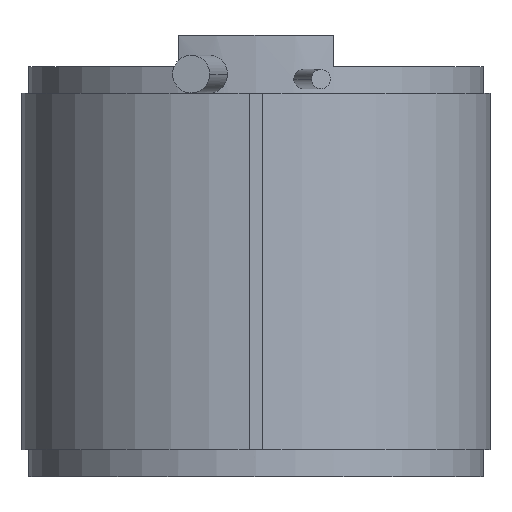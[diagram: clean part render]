
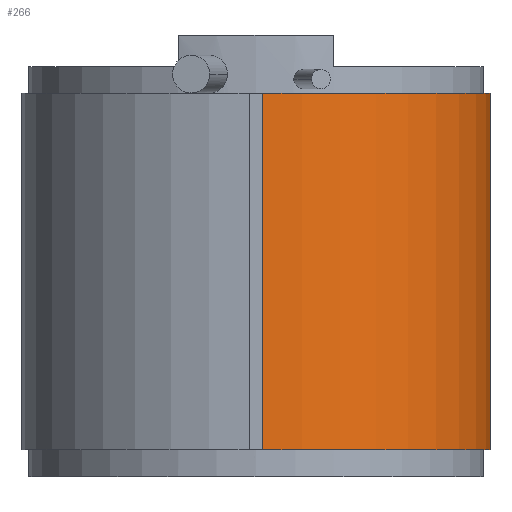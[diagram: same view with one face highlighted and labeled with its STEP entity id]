
A CAD part, front view. The second image highlights one B-rep face of the part: STEP entity #266.
In plain terms, the highlighted cylindrical face has radius 52.5 mm (diameter 105 mm), a partial arc.
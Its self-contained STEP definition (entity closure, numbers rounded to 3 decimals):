
#8 = EDGE_CURVE ( 'NONE', #635, #165, #34, .T. ) ;
#10 = DIRECTION ( 'NONE',  ( 0., 0., -1. ) ) ;
#17 = CIRCLE ( 'NONE', #580, 52.5 ) ;
#19 = CARTESIAN_POINT ( 'NONE',  ( 55.462, 74.83, 27.523 ) ) ;
#34 = LINE ( 'NONE', #1403, #985 ) ;
#35 = CARTESIAN_POINT ( 'NONE',  ( 9.246, 49.924, 27.523 ) ) ;
#108 = DIRECTION ( 'NONE',  ( 0., 0., 1. ) ) ;
#126 = AXIS2_PLACEMENT_3D ( 'NONE', #1345, #108, #529 ) ;
#158 = ORIENTED_EDGE ( 'NONE', *, *, #8, .T. ) ;
#165 = VERTEX_POINT ( 'NONE', #1430 ) ;
#266 = ADVANCED_FACE ( 'NONE', ( #1479 ), #794, .T. ) ;
#317 = VERTEX_POINT ( 'NONE', #926 ) ;
#529 = DIRECTION ( 'NONE',  ( -1., 0., 0. ) ) ;
#542 = CARTESIAN_POINT ( 'NONE',  ( 10.771, -2.554, 107.523 ) ) ;
#559 = DIRECTION ( 'NONE',  ( 0., 0., -1. ) ) ;
#560 = DIRECTION ( 'NONE',  ( -1., 0., 0. ) ) ;
#580 = AXIS2_PLACEMENT_3D ( 'NONE', #1505, #10, #1102 ) ;
#635 = VERTEX_POINT ( 'NONE', #542 ) ;
#656 = VECTOR ( 'NONE', #1013, 1000. ) ;
#685 = VERTEX_POINT ( 'NONE', #19 ) ;
#760 = EDGE_CURVE ( 'NONE', #317, #685, #1167, .T. ) ;
#794 = CYLINDRICAL_SURFACE ( 'NONE', #126, 52.5 ) ;
#926 = CARTESIAN_POINT ( 'NONE',  ( 55.462, 74.83, 107.523 ) ) ;
#985 = VECTOR ( 'NONE', #559, 1000. ) ;
#1013 = DIRECTION ( 'NONE',  ( 0., 0., -1. ) ) ;
#1023 = ORIENTED_EDGE ( 'NONE', *, *, #1100, .F. ) ;
#1100 = EDGE_CURVE ( 'NONE', #685, #165, #1354, .T. ) ;
#1102 = DIRECTION ( 'NONE',  ( 1., 0., 0. ) ) ;
#1167 = LINE ( 'NONE', #1285, #656 ) ;
#1185 = ORIENTED_EDGE ( 'NONE', *, *, #1705, .T. ) ;
#1260 = ORIENTED_EDGE ( 'NONE', *, *, #760, .F. ) ;
#1262 = EDGE_LOOP ( 'NONE', ( #1260, #1185, #158, #1023 ) ) ;
#1285 = CARTESIAN_POINT ( 'NONE',  ( 55.462, 74.83, 107.523 ) ) ;
#1327 = AXIS2_PLACEMENT_3D ( 'NONE', #35, #1655, #560 ) ;
#1345 = CARTESIAN_POINT ( 'NONE',  ( 9.246, 49.924, 107.523 ) ) ;
#1354 = CIRCLE ( 'NONE', #1327, 52.5 ) ;
#1403 = CARTESIAN_POINT ( 'NONE',  ( 10.771, -2.554, 252.231 ) ) ;
#1430 = CARTESIAN_POINT ( 'NONE',  ( 10.771, -2.554, 27.523 ) ) ;
#1479 = FACE_OUTER_BOUND ( 'NONE', #1262, .T. ) ;
#1505 = CARTESIAN_POINT ( 'NONE',  ( 9.246, 49.924, 107.523 ) ) ;
#1655 = DIRECTION ( 'NONE',  ( 0., 0., -1. ) ) ;
#1705 = EDGE_CURVE ( 'NONE', #317, #635, #17, .T. ) ;
